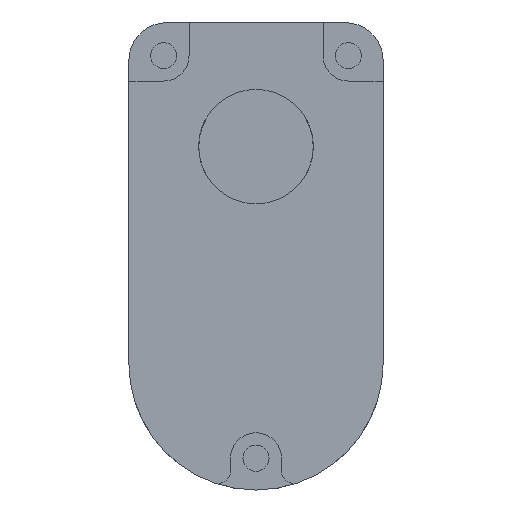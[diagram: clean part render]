
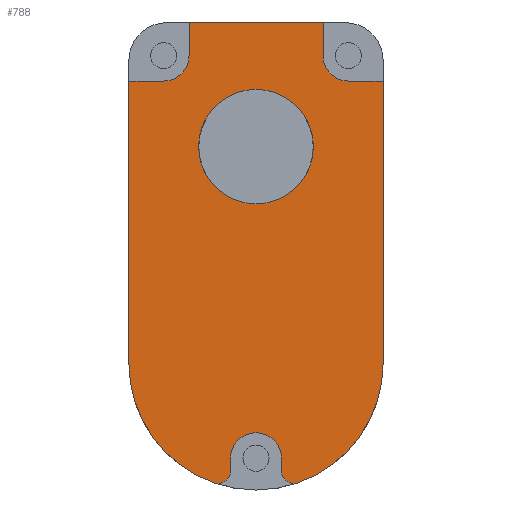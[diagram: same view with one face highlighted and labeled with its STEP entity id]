
A CAD part, left-side view. The second image highlights one B-rep face of the part: STEP entity #788.
In plain terms, the highlighted planar face has unit normal (-1, 0, 0).
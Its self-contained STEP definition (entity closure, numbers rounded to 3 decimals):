
#1=CARTESIAN_POINT('',(0.,0.,0.));
#2=DIRECTION('',(-1.,0.,0.));
#3=DIRECTION('',(0.,0.,1.));
#4=AXIS2_PLACEMENT_3D('',#1,#2,#3);
#6=CARTESIAN_POINT('',(0.,0.,0.));
#7=DIRECTION('',(-1.,0.,0.));
#8=DIRECTION('',(0.,0.,-1.));
#9=AXIS2_PLACEMENT_3D('',#6,#7,#8);
#11=DIRECTION('',(0.,0.,-1.));
#12=VECTOR('',#11,5.19);
#13=CARTESIAN_POINT('',(0.,-10.54,19.5));
#14=LINE('',#13,#12);
#15=CARTESIAN_POINT('',(0.,-14.54,14.31));
#16=DIRECTION('',(-1.,0.,0.));
#17=DIRECTION('',(0.,1.,0.));
#18=AXIS2_PLACEMENT_3D('',#15,#16,#17);
#20=DIRECTION('',(0.,1.,0.));
#21=VECTOR('',#20,5.46);
#22=CARTESIAN_POINT('',(0.,-20.,10.31));
#23=LINE('',#22,#21);
#24=DIRECTION('',(0.,0.,-1.));
#25=VECTOR('',#24,44.31);
#26=CARTESIAN_POINT('',(0.,-20.,10.31));
#27=LINE('',#26,#25);
#28=CARTESIAN_POINT('',(0.,0.,-34.));
#29=DIRECTION('',(1.,0.,0.));
#30=DIRECTION('',(0.,-1.,0.));
#31=AXIS2_PLACEMENT_3D('',#28,#29,#30);
#33=CARTESIAN_POINT('',(0.,-6.,-50.971));
#34=DIRECTION('',(-1.,0.,0.));
#35=DIRECTION('',(0.,1.,0.));
#36=AXIS2_PLACEMENT_3D('',#33,#34,#35);
#38=DIRECTION('',(0.,0.,1.));
#39=VECTOR('',#38,1.971);
#40=CARTESIAN_POINT('',(0.,-4.,-50.971));
#41=LINE('',#40,#39);
#42=CARTESIAN_POINT('',(0.,0.,-49.));
#43=DIRECTION('',(-1.,0.,0.));
#44=DIRECTION('',(0.,-1.,0.));
#45=AXIS2_PLACEMENT_3D('',#42,#43,#44);
#47=DIRECTION('',(0.,0.,-1.));
#48=VECTOR('',#47,1.971);
#49=CARTESIAN_POINT('',(0.,4.,-49.));
#50=LINE('',#49,#48);
#51=CARTESIAN_POINT('',(0.,6.,-50.971));
#52=DIRECTION('',(-1.,0.,0.));
#53=DIRECTION('',(0.,0.333,-0.943));
#54=AXIS2_PLACEMENT_3D('',#51,#52,#53);
#56=CARTESIAN_POINT('',(0.,0.,-34.));
#57=DIRECTION('',(1.,0.,0.));
#58=DIRECTION('',(0.,0.333,-0.943));
#59=AXIS2_PLACEMENT_3D('',#56,#57,#58);
#61=DIRECTION('',(0.,0.,1.));
#62=VECTOR('',#61,44.31);
#63=CARTESIAN_POINT('',(0.,20.,-34.));
#64=LINE('',#63,#62);
#65=DIRECTION('',(0.,-1.,0.));
#66=VECTOR('',#65,5.465);
#67=CARTESIAN_POINT('',(0.,20.,10.31));
#68=LINE('',#67,#66);
#69=CARTESIAN_POINT('',(0.,14.535,14.31));
#70=DIRECTION('',(-1.,0.,0.));
#71=DIRECTION('',(0.,0.,-1.));
#72=AXIS2_PLACEMENT_3D('',#69,#70,#71);
#74=DIRECTION('',(0.,0.,-1.));
#75=VECTOR('',#74,5.19);
#76=CARTESIAN_POINT('',(0.,10.535,19.5));
#77=LINE('',#76,#75);
#78=DIRECTION('',(0.,-1.,0.));
#79=VECTOR('',#78,21.075);
#80=CARTESIAN_POINT('',(0.,10.535,19.5));
#81=LINE('',#80,#79);
#599=CARTESIAN_POINT('',(0.,20.,-34.));
#600=VERTEX_POINT('',#599);
#601=CARTESIAN_POINT('',(0.,-20.,-34.));
#602=VERTEX_POINT('',#601);
#631=CARTESIAN_POINT('',(0.,0.,9.));
#632=CARTESIAN_POINT('',(0.,0.,-9.));
#633=VERTEX_POINT('',#631);
#634=VERTEX_POINT('',#632);
#647=CARTESIAN_POINT('',(0.,-10.54,19.5));
#648=CARTESIAN_POINT('',(0.,-10.54,14.31));
#649=VERTEX_POINT('',#647);
#650=VERTEX_POINT('',#648);
#651=CARTESIAN_POINT('',(0.,-14.54,10.31));
#652=VERTEX_POINT('',#651);
#653=CARTESIAN_POINT('',(0.,-20.,10.31));
#654=VERTEX_POINT('',#653);
#655=CARTESIAN_POINT('',(0.,20.,10.31));
#656=CARTESIAN_POINT('',(0.,14.535,10.31));
#657=VERTEX_POINT('',#655);
#658=VERTEX_POINT('',#656);
#659=CARTESIAN_POINT('',(0.,10.535,14.31));
#660=VERTEX_POINT('',#659);
#661=CARTESIAN_POINT('',(0.,10.535,19.5));
#662=VERTEX_POINT('',#661);
#687=CARTESIAN_POINT('',(0.,-4.,-49.));
#688=CARTESIAN_POINT('',(0.,4.,-49.));
#689=VERTEX_POINT('',#687);
#690=VERTEX_POINT('',#688);
#691=CARTESIAN_POINT('',(0.,4.,-50.971));
#692=VERTEX_POINT('',#691);
#693=CARTESIAN_POINT('',(0.,6.667,-52.856));
#694=VERTEX_POINT('',#693);
#695=CARTESIAN_POINT('',(0.,-4.,-50.971));
#696=CARTESIAN_POINT('',(0.,-6.667,-52.856));
#697=VERTEX_POINT('',#695);
#698=VERTEX_POINT('',#696);
#743=CARTESIAN_POINT('',(0.,0.,0.));
#744=DIRECTION('',(1.,0.,0.));
#745=DIRECTION('',(0.,-1.,0.));
#746=AXIS2_PLACEMENT_3D('',#743,#744,#745);
#747=PLANE('',#746);
#749=ORIENTED_EDGE('',*,*,#748,.T.);
#751=ORIENTED_EDGE('',*,*,#750,.T.);
#753=ORIENTED_EDGE('',*,*,#752,.F.);
#755=ORIENTED_EDGE('',*,*,#754,.T.);
#757=ORIENTED_EDGE('',*,*,#756,.T.);
#759=ORIENTED_EDGE('',*,*,#758,.F.);
#761=ORIENTED_EDGE('',*,*,#760,.T.);
#763=ORIENTED_EDGE('',*,*,#762,.T.);
#765=ORIENTED_EDGE('',*,*,#764,.T.);
#767=ORIENTED_EDGE('',*,*,#766,.F.);
#769=ORIENTED_EDGE('',*,*,#768,.T.);
#771=ORIENTED_EDGE('',*,*,#770,.T.);
#773=ORIENTED_EDGE('',*,*,#772,.T.);
#775=ORIENTED_EDGE('',*,*,#774,.T.);
#777=ORIENTED_EDGE('',*,*,#776,.F.);
#779=ORIENTED_EDGE('',*,*,#778,.T.);
#780=EDGE_LOOP('',(#749,#751,#753,#755,#757,#759,#761,#763,#765,#767,#769,#771,
#773,#775,#777,#779));
#781=FACE_OUTER_BOUND('',#780,.F.);
#783=ORIENTED_EDGE('',*,*,#782,.T.);
#785=ORIENTED_EDGE('',*,*,#784,.T.);
#786=EDGE_LOOP('',(#783,#785));
#787=FACE_BOUND('',#786,.F.);
#788=ADVANCED_FACE('',(#781,#787),#747,.F.);
#5=CIRCLE('',#4,9.);
#10=CIRCLE('',#9,9.);
#19=CIRCLE('',#18,4.);
#32=CIRCLE('',#31,20.);
#37=CIRCLE('',#36,2.);
#46=CIRCLE('',#45,4.);
#55=CIRCLE('',#54,2.);
#60=CIRCLE('',#59,20.);
#73=CIRCLE('',#72,4.);
#748=EDGE_CURVE('',#649,#650,#14,.T.);
#750=EDGE_CURVE('',#650,#652,#19,.T.);
#752=EDGE_CURVE('',#654,#652,#23,.T.);
#754=EDGE_CURVE('',#654,#602,#27,.T.);
#756=EDGE_CURVE('',#602,#698,#32,.T.);
#758=EDGE_CURVE('',#697,#698,#37,.T.);
#760=EDGE_CURVE('',#697,#689,#41,.T.);
#762=EDGE_CURVE('',#689,#690,#46,.T.);
#764=EDGE_CURVE('',#690,#692,#50,.T.);
#766=EDGE_CURVE('',#694,#692,#55,.T.);
#768=EDGE_CURVE('',#694,#600,#60,.T.);
#770=EDGE_CURVE('',#600,#657,#64,.T.);
#772=EDGE_CURVE('',#657,#658,#68,.T.);
#774=EDGE_CURVE('',#658,#660,#73,.T.);
#776=EDGE_CURVE('',#662,#660,#77,.T.);
#778=EDGE_CURVE('',#662,#649,#81,.T.);
#782=EDGE_CURVE('',#633,#634,#5,.T.);
#784=EDGE_CURVE('',#634,#633,#10,.T.);
